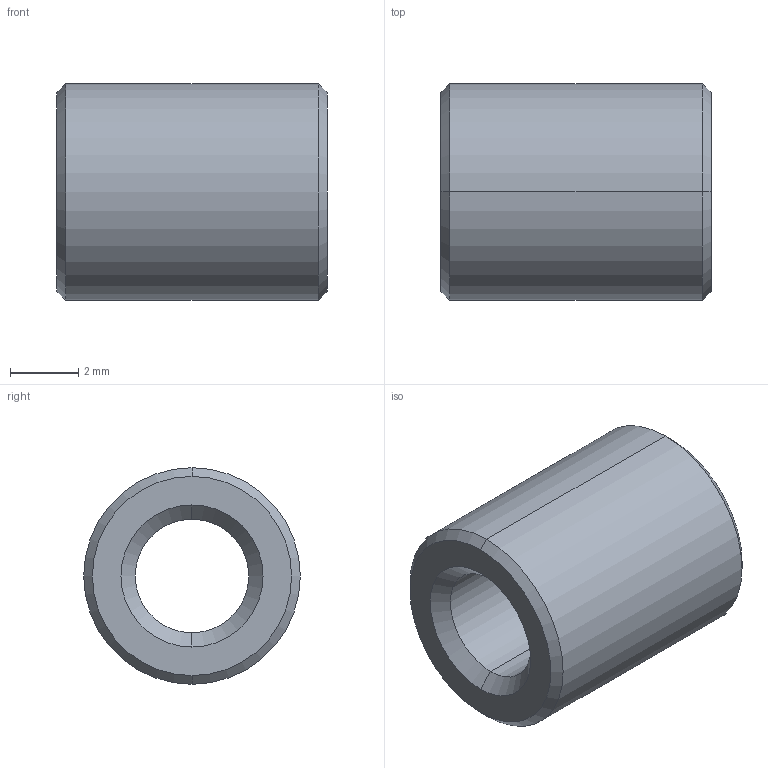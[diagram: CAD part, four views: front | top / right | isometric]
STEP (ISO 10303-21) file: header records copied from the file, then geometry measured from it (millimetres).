
FILE_DESCRIPTION(('starvars output'),'2;1');
FILE_NAME('cv20190724093541000060139.stp','09:35:41 2019/07/24',( 'Thomas Industrial Network Germany GmbH'),( 'Thomas Industrial Network Germany GmbH'),'unknown preprocess','ACIS' ,'unknown authorization');
FILE_SCHEMA(('AUTOMOTIVE_DESIGN_CC2 {UNKNOWN IMPLEMENTATION LEVEL}'));
Length unit declared in the file: millimetre
Products named in the file (1): PRODUCT_ID_1
Bounding box: 7.92 x 6.35 x 6.35 mm (x, y, z)
Volume: 178.8 mm3; surface area: 276.1 mm2
Topology: 1 solids, 1 shells, 14 faces, 28 edges, 16 vertices
Faces by surface type: cone 8, cylinder 4, plane 2
Entity records: 493 total; most frequent: ORIENTED_EDGE 56, CARTESIAN_POINT 44, DIRECTION 44, EDGE_CURVE 28, VERTEX_POINT 16, AXIS2_PLACEMENT_3D 16, EDGE_LOOP 16, FACE_BOUND 16
